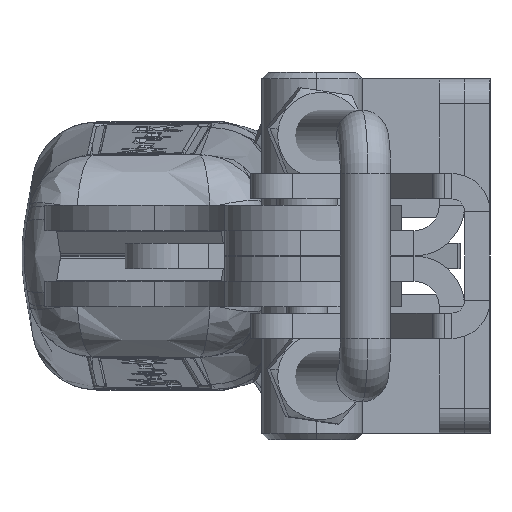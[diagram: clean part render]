
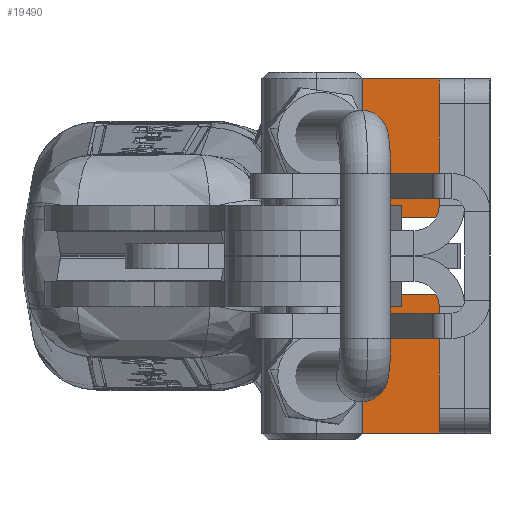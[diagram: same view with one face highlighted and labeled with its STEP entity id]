
A CAD part, left-side view. The second image highlights one B-rep face of the part: STEP entity #19490.
In plain terms, the highlighted planar face has unit normal (-1, 0, 0).
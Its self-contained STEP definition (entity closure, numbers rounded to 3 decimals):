
#112 = VERTEX_POINT ( 'NONE', #34260 ) ;
#287 = LINE ( 'NONE', #12892, #36670 ) ;
#505 = DIRECTION ( 'NONE',  ( 0., 1., 0. ) ) ;
#547 = CARTESIAN_POINT ( 'NONE',  ( 13.2, 6.887, -3. ) ) ;
#706 = ORIENTED_EDGE ( 'NONE', *, *, #16270, .T. ) ;
#967 = EDGE_CURVE ( 'NONE', #12842, #17505, #32990, .T. ) ;
#982 = LINE ( 'NONE', #10332, #15361 ) ;
#1135 = VECTOR ( 'NONE', #17764, 1000. ) ;
#1292 = PLANE ( 'NONE',  #21223 ) ;
#1957 = AXIS2_PLACEMENT_3D ( 'NONE', #16726, #36790, #19618 ) ;
#2386 = ORIENTED_EDGE ( 'NONE', *, *, #15159, .F. ) ;
#2865 = EDGE_CURVE ( 'NONE', #21855, #20771, #982, .T. ) ;
#3258 = LINE ( 'NONE', #3383, #9990 ) ;
#3383 = CARTESIAN_POINT ( 'NONE',  ( 13.2, 7.187, 14. ) ) ;
#3510 = CIRCLE ( 'NONE', #29833, 2. ) ;
#3623 = VECTOR ( 'NONE', #10984, 1000. ) ;
#3949 = VECTOR ( 'NONE', #22223, 1000. ) ;
#4186 = DIRECTION ( 'NONE',  ( 0., 0., 1. ) ) ;
#4632 = VERTEX_POINT ( 'NONE', #18414 ) ;
#4947 = ORIENTED_EDGE ( 'NONE', *, *, #25213, .T. ) ;
#5462 = DIRECTION ( 'NONE',  ( 0., 1., 0. ) ) ;
#6294 = CARTESIAN_POINT ( 'NONE',  ( 13.2, 14.187, -12. ) ) ;
#6803 = EDGE_CURVE ( 'NONE', #4632, #16717, #26876, .T. ) ;
#6967 = CARTESIAN_POINT ( 'NONE',  ( 13.2, 9.387, 3. ) ) ;
#7880 = CARTESIAN_POINT ( 'NONE',  ( 13.2, 1.5, 12. ) ) ;
#8913 = VECTOR ( 'NONE', #27081, 1000. ) ;
#9965 = CARTESIAN_POINT ( 'NONE',  ( 13.2, 1.5, 3. ) ) ;
#9990 = VECTOR ( 'NONE', #505, 1000. ) ;
#10332 = CARTESIAN_POINT ( 'NONE',  ( 13.2, 7.187, -14. ) ) ;
#10348 = CARTESIAN_POINT ( 'NONE',  ( 13.2, 9.387, -3. ) ) ;
#10984 = DIRECTION ( 'NONE',  ( 0., 0., -1. ) ) ;
#11292 = DIRECTION ( 'NONE',  ( -1., 0., 0. ) ) ;
#11493 = ORIENTED_EDGE ( 'NONE', *, *, #31087, .T. ) ;
#12556 = ORIENTED_EDGE ( 'NONE', *, *, #13993, .F. ) ;
#12842 = VERTEX_POINT ( 'NONE', #12960 ) ;
#12892 = CARTESIAN_POINT ( 'NONE',  ( 13.2, 14.187, 12. ) ) ;
#12960 = CARTESIAN_POINT ( 'NONE',  ( 13.2, 12.187, 14. ) ) ;
#13053 = LINE ( 'NONE', #20041, #3623 ) ;
#13993 = EDGE_CURVE ( 'NONE', #112, #20771, #13053, .T. ) ;
#15159 = EDGE_CURVE ( 'NONE', #16717, #27179, #34596, .T. ) ;
#15321 = CARTESIAN_POINT ( 'NONE',  ( 13.2, 12.187, -14. ) ) ;
#15361 = VECTOR ( 'NONE', #27568, 1000. ) ;
#15861 = VERTEX_POINT ( 'NONE', #6294 ) ;
#16043 = DIRECTION ( 'NONE',  ( 0., 0., -1. ) ) ;
#16270 = EDGE_CURVE ( 'NONE', #15861, #21855, #3510, .T. ) ;
#16717 = VERTEX_POINT ( 'NONE', #9965 ) ;
#16726 = CARTESIAN_POINT ( 'NONE',  ( 13.2, 12.187, 12. ) ) ;
#16924 = CARTESIAN_POINT ( 'NONE',  ( 13.2, 6.887, 3. ) ) ;
#16939 = CARTESIAN_POINT ( 'NONE',  ( 13.2, 9.387, 3. ) ) ;
#17505 = VERTEX_POINT ( 'NONE', #23853 ) ;
#17764 = DIRECTION ( 'NONE',  ( 0., -1., 0. ) ) ;
#18414 = CARTESIAN_POINT ( 'NONE',  ( 13.2, 1.5, 14. ) ) ;
#19376 = EDGE_LOOP ( 'NONE', ( #31556, #4947, #23428, #11493, #706, #25398, #12556, #26815, #31606, #2386 ) ) ;
#19490 = ADVANCED_FACE ( 'NONE', ( #25440 ), #1292, .T. ) ;
#19618 = DIRECTION ( 'NONE',  ( 0., 0., 1. ) ) ;
#20041 = CARTESIAN_POINT ( 'NONE',  ( 13.2, 1.5, 12. ) ) ;
#20215 = VECTOR ( 'NONE', #5462, 1000. ) ;
#20771 = VERTEX_POINT ( 'NONE', #36026 ) ;
#21223 = AXIS2_PLACEMENT_3D ( 'NONE', #27072, #21392, #4186 ) ;
#21392 = DIRECTION ( 'NONE',  ( -1., 0., 0. ) ) ;
#21855 = VERTEX_POINT ( 'NONE', #15321 ) ;
#22223 = DIRECTION ( 'NONE',  ( 0., 0., -1. ) ) ;
#22415 = LINE ( 'NONE', #6967, #8913 ) ;
#23428 = ORIENTED_EDGE ( 'NONE', *, *, #967, .T. ) ;
#23853 = CARTESIAN_POINT ( 'NONE',  ( 13.2, 14.187, 12. ) ) ;
#24089 = LINE ( 'NONE', #547, #1135 ) ;
#25213 = EDGE_CURVE ( 'NONE', #4632, #12842, #3258, .T. ) ;
#25398 = ORIENTED_EDGE ( 'NONE', *, *, #2865, .T. ) ;
#25440 = FACE_OUTER_BOUND ( 'NONE', #19376, .T. ) ;
#26815 = ORIENTED_EDGE ( 'NONE', *, *, #31723, .F. ) ;
#26876 = LINE ( 'NONE', #7880, #3949 ) ;
#27072 = CARTESIAN_POINT ( 'NONE',  ( 13.2, 7.187, 12. ) ) ;
#27081 = DIRECTION ( 'NONE',  ( 0., 0., -1. ) ) ;
#27179 = VERTEX_POINT ( 'NONE', #16939 ) ;
#27568 = DIRECTION ( 'NONE',  ( 0., -1., 0. ) ) ;
#28517 = CARTESIAN_POINT ( 'NONE',  ( 13.2, 12.187, -12. ) ) ;
#28988 = EDGE_CURVE ( 'NONE', #27179, #29987, #22415, .T. ) ;
#29833 = AXIS2_PLACEMENT_3D ( 'NONE', #28517, #11292, #31416 ) ;
#29987 = VERTEX_POINT ( 'NONE', #10348 ) ;
#31087 = EDGE_CURVE ( 'NONE', #17505, #15861, #287, .T. ) ;
#31416 = DIRECTION ( 'NONE',  ( 0., 0., 1. ) ) ;
#31556 = ORIENTED_EDGE ( 'NONE', *, *, #6803, .F. ) ;
#31606 = ORIENTED_EDGE ( 'NONE', *, *, #28988, .F. ) ;
#31723 = EDGE_CURVE ( 'NONE', #29987, #112, #24089, .T. ) ;
#32990 = CIRCLE ( 'NONE', #1957, 2. ) ;
#34260 = CARTESIAN_POINT ( 'NONE',  ( 13.2, 1.5, -3. ) ) ;
#34596 = LINE ( 'NONE', #16924, #20215 ) ;
#36026 = CARTESIAN_POINT ( 'NONE',  ( 13.2, 1.5, -14. ) ) ;
#36670 = VECTOR ( 'NONE', #16043, 1000. ) ;
#36790 = DIRECTION ( 'NONE',  ( -1., 0., 0. ) ) ;
